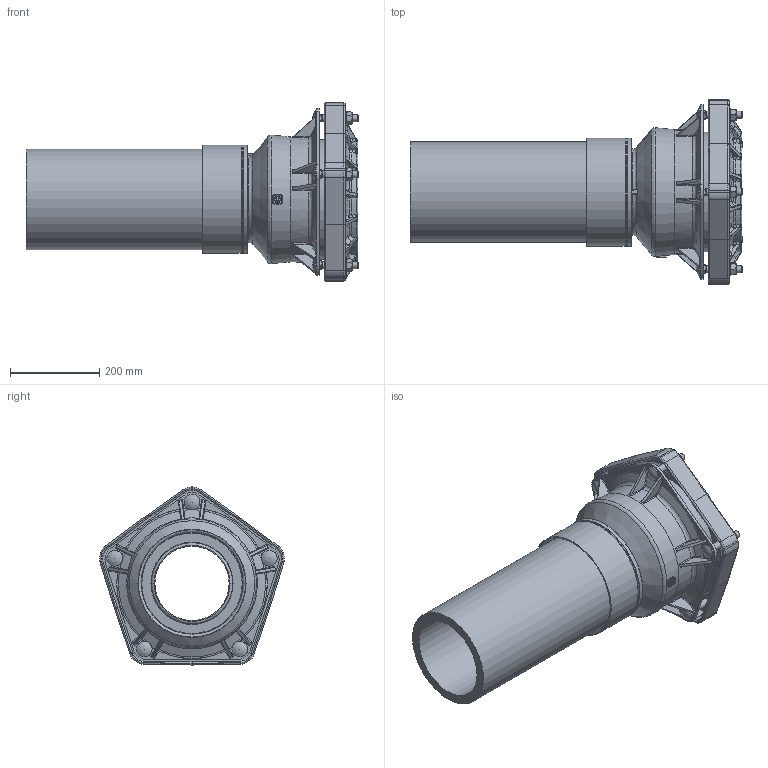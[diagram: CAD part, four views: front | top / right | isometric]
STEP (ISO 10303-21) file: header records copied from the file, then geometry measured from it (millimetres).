
FILE_DESCRIPTION((''),'2;1');
FILE_NAME('P:\Fastrack\54361_VIKING JOHNSON 3D\ULTRAGRIP\Component Parts\Components Built up\Pecatadaptor\200MMx225SDR11-UltraGrip-Pecat-Adaptor-Assembly\200MMx225SDR11-UltraGrip-Pecat-Adaptor.stp','2012-06-27T15:29:44',('dcole'),(''),'Autodesk Inventor 2008','Autodesk Inventor 2008','');
FILE_SCHEMA(('AUTOMOTIVE_DESIGN { 1 0 10303 214 1 1 1 1 }'));
Length unit declared in the file: millimetre
Products named in the file (1): 200MMx225SDR11-UltraGrip-Pecat-Adaptor
Bounding box: 743.5 x 414.55 x 398.7 mm (x, y, z)
Volume: 10343155.9 mm3; surface area: 1666912.2 mm2
Topology: 1 solids, 2 shells, 1257 faces, 3136 edges, 1918 vertices
Faces by surface type: bspline 401, plane 359, cylinder 303, cone 127, torus 67
Full cylindrical faces by diameter (mm): 13 x1, 15.7 x10, 16 x5, 30 x5, 35.2 x5, 166.5 x1, 182.95 x1, 184 x2, 225 x2, 228.3 x2, 242 x3, 257 x1, 259 x3, 268 x1
Entity records: 60035 total; most frequent: CARTESIAN_POINT 31966, ORIENTED_EDGE 5992, DIRECTION 4904, EDGE_CURVE 2996, AXIS2_PLACEMENT_3D 1999, VERTEX_POINT 1875, EDGE_LOOP 1403, STYLED_ITEM 1258
